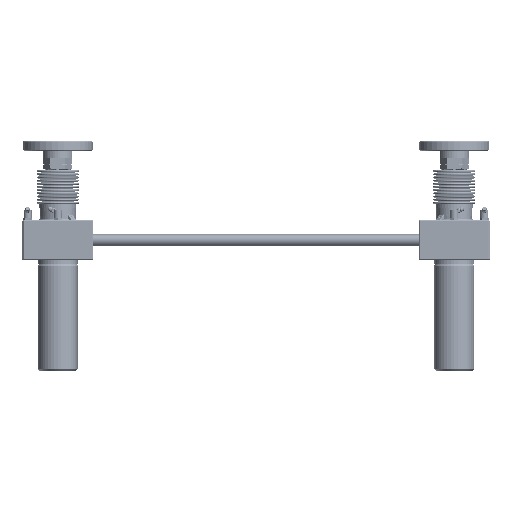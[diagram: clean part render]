
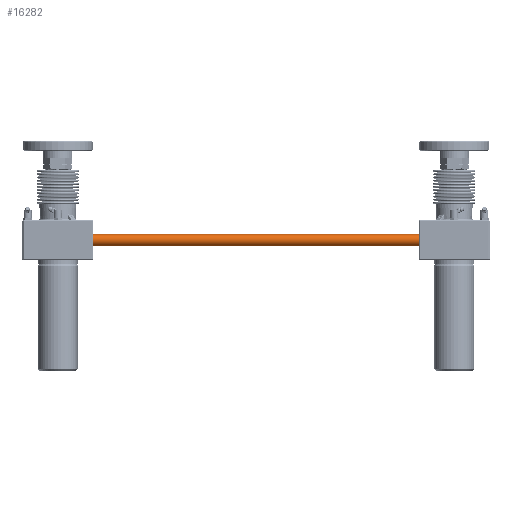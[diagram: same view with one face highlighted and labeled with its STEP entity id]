
A CAD part, front view. The second image highlights one B-rep face of the part: STEP entity #16282.
In plain terms, the highlighted cylindrical face has radius 7.5 mm (diameter 15 mm), a full revolution.
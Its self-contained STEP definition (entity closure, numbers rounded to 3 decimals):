
#16282=ADVANCED_FACE('',(#36957,#36958),#36959,.T.);
#36957=FACE_OUTER_BOUND('',#58927,.T.);
#36958=FACE_OUTER_BOUND('',#58928,.T.);
#36959=CYLINDRICAL_SURFACE('',#58929,7.5);
#58927=EDGE_LOOP('',(#142234));
#58928=EDGE_LOOP('',(#142235));
#58929=AXIS2_PLACEMENT_3D('',#142236,#142237,#142238);
#142234=ORIENTED_EDGE('',*,*,#169127,.T.);
#142235=ORIENTED_EDGE('',*,*,#169124,.T.);
#142236=CARTESIAN_POINT('',(0.0,0.0,532.0));
#142237=DIRECTION('',(0.0,0.0,-1.0));
#142238=DIRECTION('',(-1.0,0.0,0.0));
#169124=EDGE_CURVE('',#214048,#214048,#214049,.F.);
#169127=EDGE_CURVE('',#214054,#214054,#214055,.T.);
#214048=VERTEX_POINT('',#289620);
#214049=CIRCLE('',#289621,7.5);
#214054=VERTEX_POINT('',#289626);
#214055=CIRCLE('',#289627,7.5);
#289620=CARTESIAN_POINT('',(7.5,0.0,531.0));
#289621=AXIS2_PLACEMENT_3D('',#319326,#319327,#319328);
#289626=CARTESIAN_POINT('',(7.5,0.0,1.0));
#289627=AXIS2_PLACEMENT_3D('',#319335,#319336,#319337);
#319326=CARTESIAN_POINT('',(0.0,0.0,531.0));
#319327=DIRECTION('',(0.0,0.0,1.0));
#319328=DIRECTION('',(1.0,0.0,0.0));
#319335=CARTESIAN_POINT('',(0.0,0.0,1.0));
#319336=DIRECTION('',(0.0,0.0,1.0));
#319337=DIRECTION('',(1.0,0.0,0.0));
